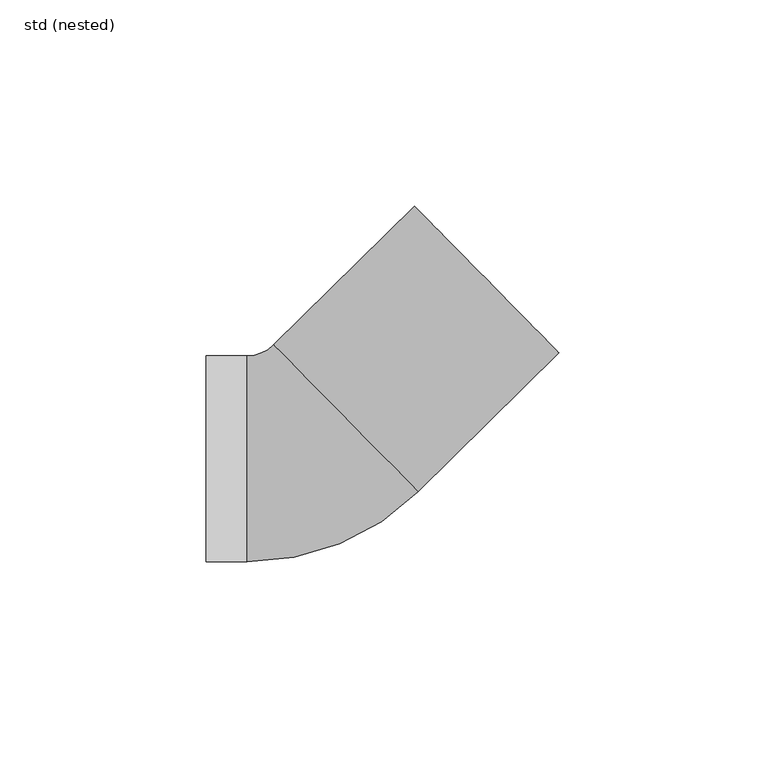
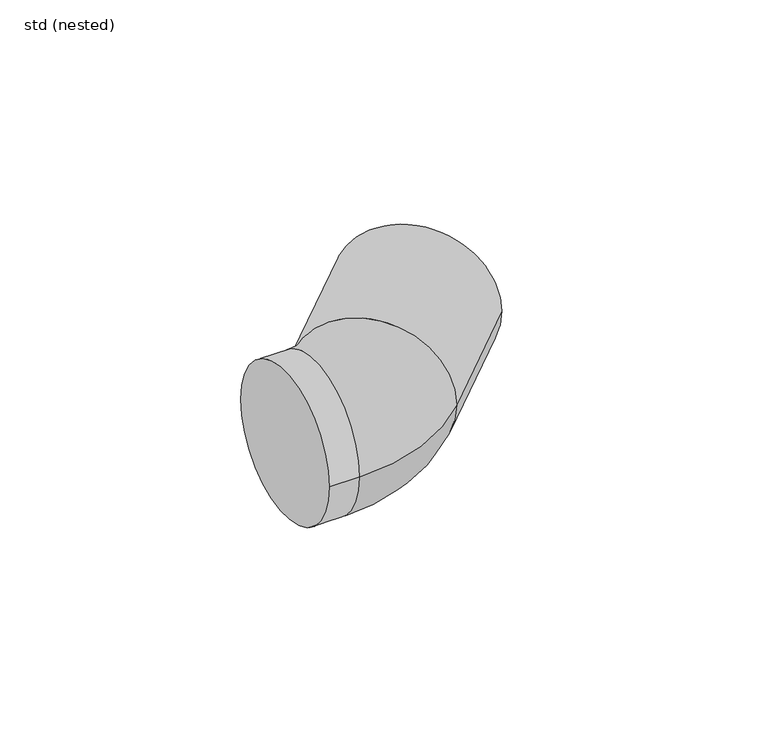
"""IFC4 building model written with IfcOpenShell, lengths in millimetres: pipe fitting geometry, ZZZ_do not use_PIF_ST_UN_ACO pipe bend_ACO : std (nested)."""

from ifc_helpers import new_model, si_unit, point, frame, origin, place, context, project, spatial, circle_curve, ellipse_curve, trimmed, source, transform, mapped, element, save
from ifc_brep_helpers import plane_surface, cylinder_surface, revolved_surface, advanced_brep


def std_nested_8c5ec0dd(model_context):
    return source(origin(), model_context, "Body", "AdvancedBrep", [
        advanced_brep(
        [(-7.5711446, 27.6347204, 0.0), (-14.0, 25.0, 0.0), (-14.0, -25.0, 0.0), (27.5180576, -7.9847672, 0.0), (-24.0, -25.0, 0.0), (-24.0, 25.0, 0.0), (61.7127656, 25.7008669, 0.0), (26.6235634, 61.3203545, 0.0)],
        [
            (0, 1, circle_curve(frame((-14.0, 34.1607318, 0.0), z_axis=(0.0, 0.0, -1.0), x_axis=(0.0, -1.0, 0.0)), 9.1607318)),
            (1, 2, circle_curve(frame((-14.0, 0.0, 0.0), z_axis=(1.0, 0.0, 0.0), x_axis=(0.0, 1.0, 0.0)), 25.0)),
            (2, 3, circle_curve(frame((-14.0, 34.1607318, 0.0), z_axis=(0.0, 0.0, 1.0), x_axis=(0.0, -1.0, 0.0)), 59.1607318)),
            (3, 0, circle_curve(frame((9.9734565, 9.8249766, 0.0), z_axis=(-0.7123897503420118, -0.7017840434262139, 0.0), x_axis=(-0.7017840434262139, 0.7123897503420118, 0.0)), 25.0)),
            (0, 3, circle_curve(frame((9.9734565, 9.8249766, 0.0), z_axis=(-0.7123897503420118, -0.7017840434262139, 0.0), x_axis=(-0.7017840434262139, 0.7123897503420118, 0.0)), 25.0)),
            (2, 1, circle_curve(frame((-14.0, 0.0, 0.0), z_axis=(1.0, 0.0, 0.0), x_axis=(0.0, 1.0, 0.0)), 25.0)),
            (4, 5, circle_curve(frame((-24.0, 0.0, 0.0), z_axis=(-1.0, 0.0, 0.0), x_axis=(0.0, 1.0, 0.0)), 25.0)),
            (5, 4, circle_curve(frame((-24.0, 0.0, 0.0), z_axis=(-1.0, 0.0, 0.0), x_axis=(0.0, 1.0, 0.0)), 25.0)),
            (5, 1),
            (2, 4),
            (6, 7, circle_curve(frame((44.1681645, 43.5106107, 0.0), z_axis=(0.7123897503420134, 0.7017840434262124, 0.0), x_axis=(-0.7017840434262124, 0.7123897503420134, 0.0)), 25.0)),
            (7, 6, circle_curve(frame((44.1681645, 43.5106107, 0.0), z_axis=(0.7123897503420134, 0.7017840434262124, 0.0), x_axis=(-0.7017840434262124, 0.7123897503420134, 0.0)), 25.0)),
            (7, 0),
            (3, 6),
        ],
        [
            revolved_surface(trimmed(ellipse_curve(frame((-14.0, 0.0, 0.0), z_axis=(-1.0, 0.0, 0.0), x_axis=(0.0, 1.0, 0.0)), 25.0, 25.0), [point((-14.0, -25.0, 0.0))], [point((-14.0, 25.0, 0.0))], True, "CARTESIAN"), (-14.0, 34.1607318, 0.0), (0.0, 0.0, 1.0)),
            revolved_surface(trimmed(ellipse_curve(frame((-14.0, 0.0, 0.0), z_axis=(-1.0, 0.0, 0.0), x_axis=(0.0, 1.0, 0.0)), 25.0, 25.0), [point((-14.0, 25.0, 0.0))], [point((-14.0, -25.0, 0.0))], True, "CARTESIAN"), (-14.0, 34.1607318, 0.0), (0.0, 0.0, 1.0)),
            plane_surface(frame((-24.0, 25.0, 0.0), z_axis=(-1.0, 0.0, 0.0), x_axis=(0.0, 0.0, -1.0))),
            cylinder_surface(frame((-24.0, 0.0, 0.0), z_axis=(1.0, 0.0, 0.0), x_axis=(0.0, 1.0, 0.0)), 25.0),
            plane_surface(frame((44.1681645, 43.5106107, 0.0), z_axis=(0.7123897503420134, 0.7017840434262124, 0.0), x_axis=(0.0, 0.0, 1.0))),
            cylinder_surface(frame((9.9734565, 9.8249766, 0.0), z_axis=(-0.7123897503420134, -0.7017840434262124, 0.0), x_axis=(-0.7017840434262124, 0.7123897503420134, 0.0)), 25.0),
        ],
        [
            (0, [[1, 2, 3, 4]]),
            (1, [[-1, 5, -3, 6]]),
            (2, [[7, 8]]),
            (3, [[-8, 9, -6, 10]]),
            (3, [[-7, -10, -2, -9]]),
            (4, [[11, 12]]),
            (5, [[-12, 13, -4, 14]]),
            (5, [[-11, -14, -5, -13]]),
        ],
    ),
    ])


if __name__ == "__main__":
    model = new_model("IFC4")
    model_context = context("Model", 3, world=origin())
    ifc_project = project(units=[si_unit("LENGTHUNIT", "METRE", prefix="MILLI")], contexts=[model_context])
    site = spatial("IfcSite", under=ifc_project)
    building = spatial("IfcBuilding", under=site)
    placement = place(None, origin())
    std_nested_shape = std_nested_8c5ec0dd(model_context)
    element("IfcPipeFitting", 1, ObjectType="ZZZ_do not use_PIF_ST_UN_ACO pipe bend_ACO : std (nested)", at=placement, inside=building, context=model_context, shape_type="MappedRepresentation", body=[
        mapped(std_nested_shape, transform((0.0, 0.0, 0.0), x_axis=(1.0, 0.0, 0.0), y_axis=(0.0, 1.0, 0.0), z_axis=(0.0, 0.0, 1.0))),
    ])
    save(model, "model.ifc")
